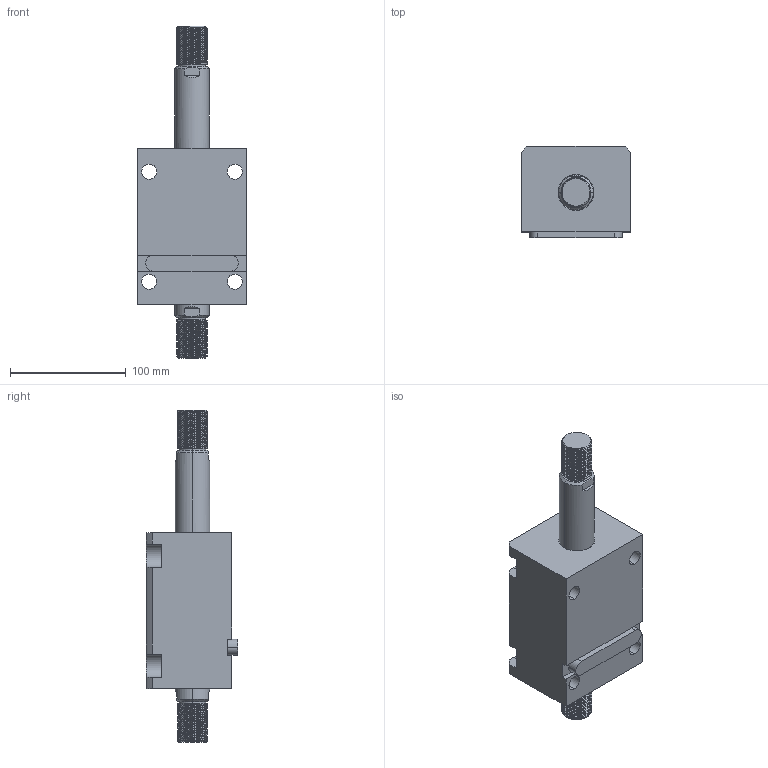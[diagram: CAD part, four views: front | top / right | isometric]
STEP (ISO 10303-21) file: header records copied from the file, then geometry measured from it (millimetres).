
FILE_DESCRIPTION (( 'STEP AP203' ), '1' );
FILE_NAME ('CHTB-LW50-60W.STEP', '2018-05-18T08:20:48', ( '' ), ( '' ), 'SwSTEP 2.0', 'SolidWorks 2015', '' );
FILE_SCHEMA (( 'CONFIG_CONTROL_DESIGN' ));
Length unit declared in the file: millimetre
Products named in the file (4): 活塞杆LW50-60W; 掛极LW50-60W; CHTB-LW50-60W; CHTM-SDMA50QG
Assembly tree (3 placements, depth 2):
  CHTB-LW50-60W
    掛极LW50-60W
    活塞杆LW50-60W
    CHTM-SDMA50QG
Bounding box: 94 x 79 x 287 mm (x, y, z)
Volume: 900540 mm3; surface area: 140687.4 mm2
Topology: 3 solids, 3 shells, 310 faces, 854 edges, 568 vertices
Faces by surface type: cylinder 186, plane 63, cone 27, bspline 18, torus 16
Entity records: 19510 total; most frequent: CARTESIAN_POINT 11940, ORIENTED_EDGE 1700, DIRECTION 1310, EDGE_CURVE 850, VERTEX_POINT 568, AXIS2_PLACEMENT_3D 503, EDGE_LOOP 348, FACE_OUTER_BOUND 310
